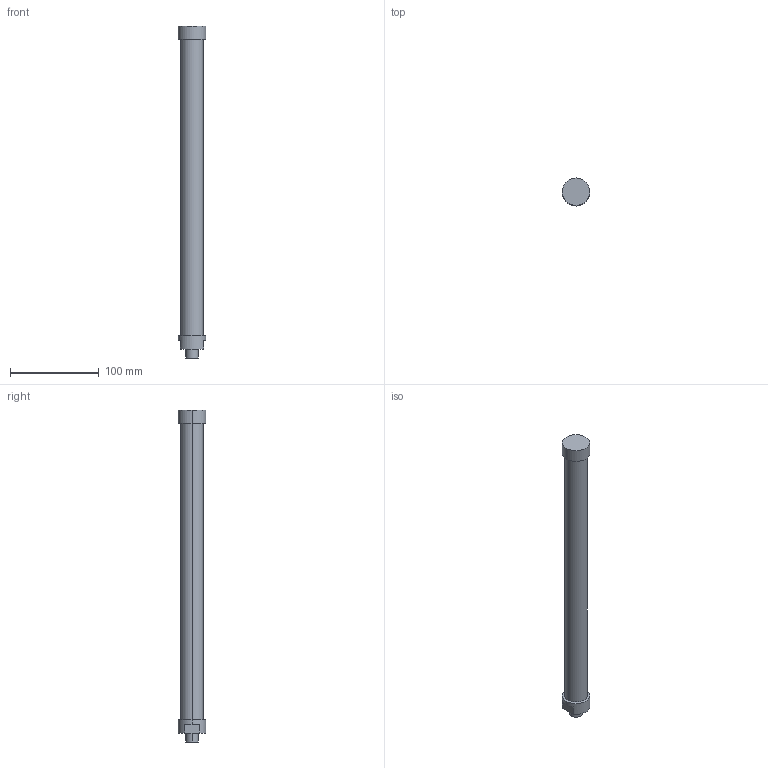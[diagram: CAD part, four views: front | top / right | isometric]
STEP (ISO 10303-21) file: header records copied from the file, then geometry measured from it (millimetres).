
FILE_DESCRIPTION(('STEP AP214'),'1');
FILE_NAME('C:/Users/Autocad/Desktop/L374-C150S1-FN.stp','2014-02-10T10:52:28',(' '),(' '),'Spatial InterOp 3D',' ',' ');
FILE_SCHEMA(('automotive_design'));
Length unit declared in the file: metre
Products named in the file (2): 1; 2
Bounding box: 31 x 31 x 374 mm (x, y, z)
Volume: 187166 mm3; surface area: 32199.2 mm2
Topology: 1 solids, 4 shells, 23 faces, 54 edges, 40 vertices
Faces by surface type: cylinder 12, plane 11
Entity records: 916 total; most frequent: DIRECTION 136, CARTESIAN_POINT 119, ORIENTED_EDGE 96, AXIS2_PLACEMENT_3D 57, EDGE_CURVE 54, VERTEX_POINT 40, CIRCLE 32, EDGE_LOOP 28
